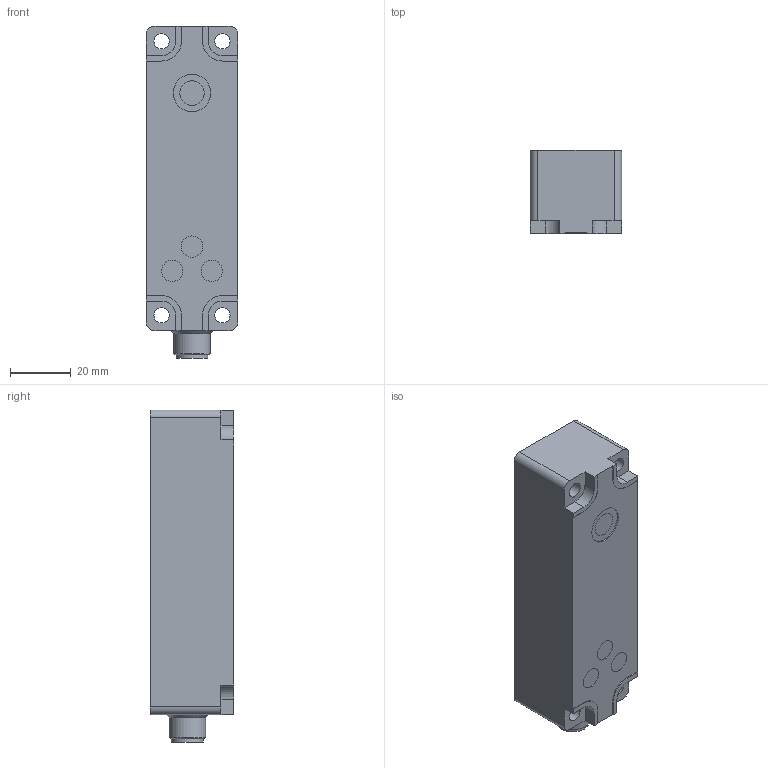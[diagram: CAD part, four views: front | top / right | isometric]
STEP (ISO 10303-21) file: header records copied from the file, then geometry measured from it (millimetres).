
FILE_DESCRIPTION((''),'2;1');
FILE_NAME('B:\MITARBEITER\Gembarski\Inventor\TEMP\Konvertierungsformate\Microsonic\IPT\STP\Ics-25_DDD_QP.stp','2007-04-18T17:17:54',('gembarski'),(''),'Autodesk Inventor 10','Autodesk Inventor 10','');
FILE_SCHEMA(('AUTOMOTIVE_DESIGN { 1 0 10303 214 1 1 1 1 }'));
Length unit declared in the file: millimetre
Products named in the file (1): Ics-25_DDD_QP
Bounding box: 30 x 27.4 x 109 mm (x, y, z)
Volume: 78810.8 mm3; surface area: 14923 mm2
Topology: 1 solids, 1 shells, 115 faces, 289 edges, 186 vertices
Faces by surface type: plane 52, cylinder 48, bspline 8, sphere 5, cone 2
Full cylindrical faces by diameter (mm): 1 x5, 1.77 x1, 5 x4, 7 x3, 8 x1, 8.3 x1, 9.2 x1, 10.5 x1, 12 x1, 12.3 x1
Entity records: 3560 total; most frequent: CARTESIAN_POINT 900, DIRECTION 559, ORIENTED_EDGE 502, EDGE_CURVE 251, AXIS2_PLACEMENT_3D 206, VERTEX_POINT 175, EDGE_LOOP 160, VECTOR 147
